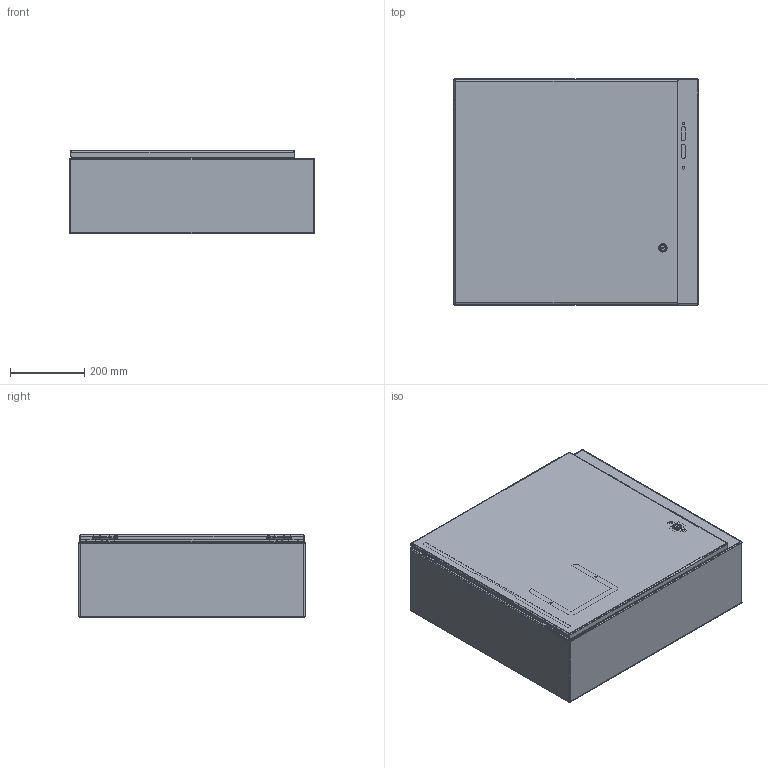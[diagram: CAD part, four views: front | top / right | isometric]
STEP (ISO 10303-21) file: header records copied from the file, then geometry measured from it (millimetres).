
FILE_DESCRIPTION (( 'STEP AP203' ), '1' );
FILE_NAME ('cdsc24268ss.STEP', '2009-02-17T15:56:43', ( '' ), ( '' ), 'SwSTEP 2.0', 'SolidWorks 2007', '' );
FILE_SCHEMA (( 'CONFIG_CONTROL_DESIGN' ));
Length unit declared in the file: inch
Products named in the file (16): 242352001; 11158311; insert_slottted; 23271001_23271001; cdsc24268ss; WmtBodySSDisc_24x26x8; SSBodyConceptDisc_24x26x8; 87543026-27_hng_sgl_bbl; Panel_CP2424; Assy_Dr_Concept_Disc_24x26; CONCEPT Door_Disc_24X24; CONCEPT door bar_24_IN; 3PointLatchAssy_60in; 64204001_housing_3pt; 64208001_cam_geared_3pt; 6421001_insert_seal_ring
Assembly tree (20 placements, depth 4):
  cdsc24268ss
    WmtBodySSDisc_24x26x8
      23271001_23271001  x4
      SSBodyConceptDisc_24x26x8
    87543026-27_hng_sgl_bbl  x2
    Assy_Dr_Concept_Disc_24x26
      11158311  x2
      3PointLatchAssy_60in
        6421001_insert_seal_ring
        insert_slottted
        64208001_cam_geared_3pt
        64204001_housing_3pt
      242352001
      CONCEPT door bar_24_IN
      CONCEPT Door_Disc_24X24
    Panel_CP2424
Bounding box: 659.13 x 609.6 x 223.93 mm (x, y, z)
Volume: 3086182.1 mm3; surface area: 3653043.5 mm2
Topology: 17 solids, 17 shells, 1082 faces, 2712 edges, 1660 vertices
Faces by surface type: plane 474, cylinder 453, torus 52, bspline 42, cone 37, sphere 24
Entity records: 31204 total; most frequent: CARTESIAN_POINT 6897, DIRECTION 4846, ORIENTED_EDGE 4624, EDGE_CURVE 2312, AXIS2_PLACEMENT_3D 1746, VERTEX_POINT 1444, VECTOR 1354, LINE 1354
